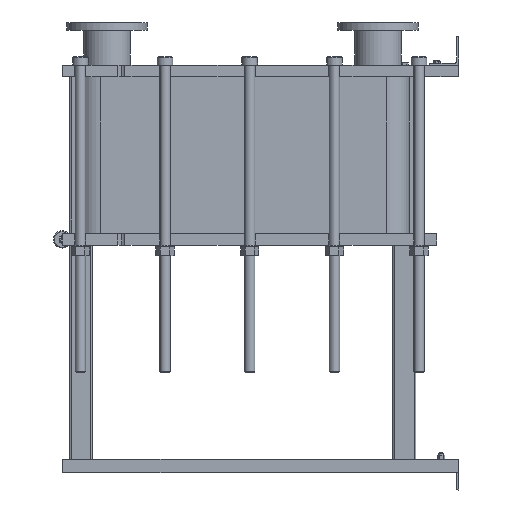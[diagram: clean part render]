
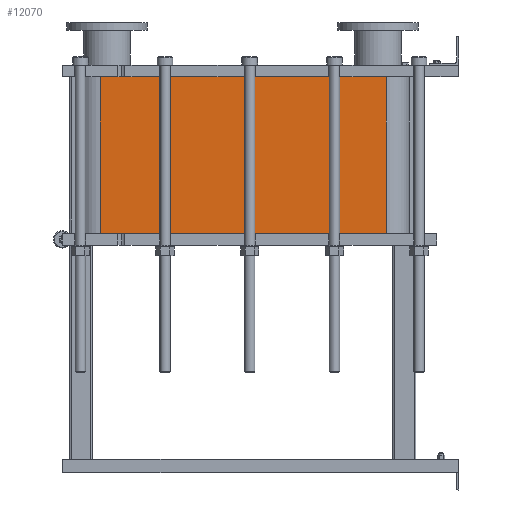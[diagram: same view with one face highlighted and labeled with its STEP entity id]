
A CAD part, left-side view. The second image highlights one B-rep face of the part: STEP entity #12070.
In plain terms, the highlighted planar face has unit normal (-1, 0, 0).
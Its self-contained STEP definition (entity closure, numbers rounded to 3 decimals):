
#1064=LINE('',#21140,#2164);
#1065=LINE('',#21144,#2165);
#1066=LINE('',#21146,#2166);
#1067=LINE('',#21147,#2167);
#2164=VECTOR('',#15790,10.);
#2165=VECTOR('',#15795,10.);
#2166=VECTOR('',#15796,10.);
#2167=VECTOR('',#15797,10.);
#3304=FACE_OUTER_BOUND('',#4091,.T.);
#4091=EDGE_LOOP('',(#9793,#9794,#9795,#9796));
#5677=VERTEX_POINT('',#21137);
#5678=VERTEX_POINT('',#21139);
#5679=VERTEX_POINT('',#21143);
#5680=VERTEX_POINT('',#21145);
#7118=EDGE_CURVE('',#5678,#5677,#1064,.T.);
#7120=EDGE_CURVE('',#5677,#5679,#1065,.T.);
#7121=EDGE_CURVE('',#5680,#5679,#1066,.T.);
#7122=EDGE_CURVE('',#5680,#5678,#1067,.T.);
#9793=ORIENTED_EDGE('',*,*,#7120,.T.);
#9794=ORIENTED_EDGE('',*,*,#7121,.F.);
#9795=ORIENTED_EDGE('',*,*,#7122,.T.);
#9796=ORIENTED_EDGE('',*,*,#7118,.T.);
#11441=PLANE('',#13191);
#12070=ADVANCED_FACE('',(#3304),#11441,.T.);
#13191=AXIS2_PLACEMENT_3D('',#21142,#15793,#15794);
#15790=DIRECTION('',(0.,0.,-1.));
#15793=DIRECTION('center_axis',(-1.,0.,0.));
#15794=DIRECTION('ref_axis',(0.,1.,0.));
#15795=DIRECTION('',(0.,-1.,0.));
#15796=DIRECTION('',(0.,0.,-1.));
#15797=DIRECTION('',(0.,1.,0.));
#21137=CARTESIAN_POINT('',(-248.152,1243.818,-545.1));
#21139=CARTESIAN_POINT('',(-248.152,1243.818,0.));
#21140=CARTESIAN_POINT('',(-248.152,1243.818,0.));
#21142=CARTESIAN_POINT('Origin',(-248.152,251.818,0.));
#21143=CARTESIAN_POINT('',(-248.152,251.818,-545.1));
#21144=CARTESIAN_POINT('',(-248.152,499.818,-545.1));
#21145=CARTESIAN_POINT('',(-248.152,251.818,0.));
#21146=CARTESIAN_POINT('',(-248.152,251.818,0.));
#21147=CARTESIAN_POINT('',(-248.152,251.818,0.));
